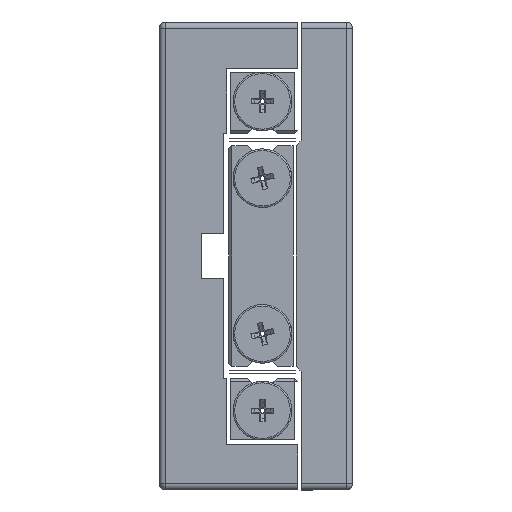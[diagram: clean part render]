
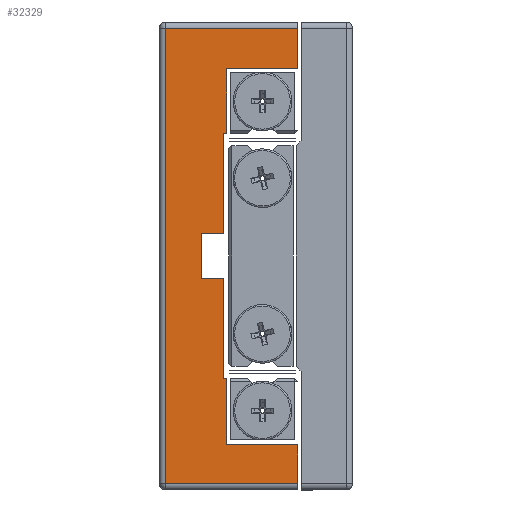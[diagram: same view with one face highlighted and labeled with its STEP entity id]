
A CAD part, left-side view. The second image highlights one B-rep face of the part: STEP entity #32329.
In plain terms, the highlighted planar face has unit normal (-1, 0, 0).
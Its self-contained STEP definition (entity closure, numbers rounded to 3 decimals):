
#2369 = CARTESIAN_POINT ( 'NONE',  ( -308.02, 49.775, -72.5 ) ) ;
#2386 = PLANE ( 'NONE',  #12313 ) ;
#2390 = DIRECTION ( 'NONE',  ( 1., 0., 0. ) ) ;
#2391 = DIRECTION ( 'NONE',  ( 0., 0., -1. ) ) ;
#2519 = CARTESIAN_POINT ( 'NONE',  ( -308.02, 6.775, -58.5 ) ) ;
#2527 = CARTESIAN_POINT ( 'NONE',  ( -308.02, 29.775, 38. ) ) ;
#2555 = CARTESIAN_POINT ( 'NONE',  ( -308.02, 6.775, 70.5 ) ) ;
#2557 = CARTESIAN_POINT ( 'NONE',  ( -308.02, 6.775, -70.5 ) ) ;
#2584 = CARTESIAN_POINT ( 'NONE',  ( -308.02, 28.775, -38. ) ) ;
#2600 = CARTESIAN_POINT ( 'NONE',  ( -308.02, 29.775, -38. ) ) ;
#2601 = CARTESIAN_POINT ( 'NONE',  ( -308.02, 36.775, 7. ) ) ;
#2604 = CARTESIAN_POINT ( 'NONE',  ( -308.02, 28.775, -58.5 ) ) ;
#2608 = CARTESIAN_POINT ( 'NONE',  ( -308.02, 36.775, -7. ) ) ;
#2617 = CARTESIAN_POINT ( 'NONE',  ( -308.02, 29.775, -7. ) ) ;
#3734 = CARTESIAN_POINT ( 'NONE',  ( -308.02, 6.775, -72.5 ) ) ;
#3735 = DIRECTION ( 'NONE',  ( 0., 0., 1. ) ) ;
#3736 = CARTESIAN_POINT ( 'NONE',  ( -308.02, 6.775, -72.5 ) ) ;
#3737 = DIRECTION ( 'NONE',  ( 0., 0., 1. ) ) ;
#3739 = CARTESIAN_POINT ( 'NONE',  ( -308.02, 47.775, -72.5 ) ) ;
#3743 = DIRECTION ( 'NONE',  ( 0., 0., -1. ) ) ;
#3782 = DIRECTION ( 'NONE',  ( 0., -1., 0. ) ) ;
#3786 = CARTESIAN_POINT ( 'NONE',  ( -308.02, 28.775, -58.5 ) ) ;
#3822 = DIRECTION ( 'NONE',  ( 0., 0., -1. ) ) ;
#3825 = CARTESIAN_POINT ( 'NONE',  ( -308.02, 28.775, -58.5 ) ) ;
#3930 = CARTESIAN_POINT ( 'NONE',  ( -308.02, 28.775, -38. ) ) ;
#3933 = DIRECTION ( 'NONE',  ( 0., 0., -1. ) ) ;
#3935 = CARTESIAN_POINT ( 'NONE',  ( -308.02, 29.775, -38. ) ) ;
#3937 = DIRECTION ( 'NONE',  ( 0., -1., 0. ) ) ;
#3953 = CARTESIAN_POINT ( 'NONE',  ( -308.02, 36.775, -7. ) ) ;
#3958 = DIRECTION ( 'NONE',  ( 0., 0., -1. ) ) ;
#3959 = CARTESIAN_POINT ( 'NONE',  ( -308.02, 29.775, -7. ) ) ;
#3960 = DIRECTION ( 'NONE',  ( 0., -1., 0. ) ) ;
#4001 = CARTESIAN_POINT ( 'NONE',  ( -308.02, 36.775, 7. ) ) ;
#4005 = DIRECTION ( 'NONE',  ( 0., 0., -1. ) ) ;
#4009 = CARTESIAN_POINT ( 'NONE',  ( -308.02, 29.775, 7. ) ) ;
#4011 = DIRECTION ( 'NONE',  ( 0., 1., 0. ) ) ;
#4030 = CARTESIAN_POINT ( 'NONE',  ( -308.02, 29.775, 38. ) ) ;
#4032 = DIRECTION ( 'NONE',  ( 0., 1., 0. ) ) ;
#4075 = DIRECTION ( 'NONE',  ( 0., 0., -1. ) ) ;
#4086 = CARTESIAN_POINT ( 'NONE',  ( -308.02, 28.775, 38. ) ) ;
#4210 = CARTESIAN_POINT ( 'NONE',  ( -308.02, 28.775, 58. ) ) ;
#4226 = DIRECTION ( 'NONE',  ( 0., 1., 0. ) ) ;
#4300 = CARTESIAN_POINT ( 'NONE',  ( -308.02, 49.775, -70.5 ) ) ;
#4308 = DIRECTION ( 'NONE',  ( 0., -1., 0. ) ) ;
#4382 = DIRECTION ( 'NONE',  ( 0., 1., 0. ) ) ;
#4406 = CARTESIAN_POINT ( 'NONE',  ( -308.02, 49.775, 70.5 ) ) ;
#5609 = CARTESIAN_POINT ( 'NONE',  ( -308.02, 47.775, -70.5 ) ) ;
#5752 = CARTESIAN_POINT ( 'NONE',  ( -308.02, 28.775, 38. ) ) ;
#5765 = CARTESIAN_POINT ( 'NONE',  ( -308.02, 28.775, 58. ) ) ;
#5766 = CARTESIAN_POINT ( 'NONE',  ( -308.02, 47.775, 70.5 ) ) ;
#5775 = CARTESIAN_POINT ( 'NONE',  ( -308.02, 29.775, 7. ) ) ;
#5778 = CARTESIAN_POINT ( 'NONE',  ( -308.02, 6.775, 58. ) ) ;
#10529 = FACE_OUTER_BOUND ( 'NONE', #30110, .T. ) ;
#12313 = AXIS2_PLACEMENT_3D ( 'NONE', #2369, #2390, #2391 ) ;
#14445 = LINE ( 'NONE', #3736, #14455 ) ;
#14450 = LINE ( 'NONE', #3734, #14453 ) ;
#14452 = LINE ( 'NONE', #3739, #14459 ) ;
#14453 = VECTOR ( 'NONE', #3737, 1000. ) ;
#14455 = VECTOR ( 'NONE', #3735, 1000. ) ;
#14459 = VECTOR ( 'NONE', #3743, 1000. ) ;
#14485 = LINE ( 'NONE', #3786, #14489 ) ;
#14489 = VECTOR ( 'NONE', #3782, 1000. ) ;
#14502 = LINE ( 'NONE', #3825, #14506 ) ;
#14506 = VECTOR ( 'NONE', #3822, 1000. ) ;
#14525 = LINE ( 'NONE', #3935, #14532 ) ;
#14527 = LINE ( 'NONE', #3930, #14530 ) ;
#14530 = VECTOR ( 'NONE', #3937, 1000. ) ;
#14532 = VECTOR ( 'NONE', #3933, 1000. ) ;
#14539 = LINE ( 'NONE', #3959, #14543 ) ;
#14542 = LINE ( 'NONE', #3953, #14545 ) ;
#14543 = VECTOR ( 'NONE', #3960, 1000. ) ;
#14545 = VECTOR ( 'NONE', #3958, 1000. ) ;
#14554 = LINE ( 'NONE', #4001, #14559 ) ;
#14556 = LINE ( 'NONE', #4009, #14561 ) ;
#14559 = VECTOR ( 'NONE', #4011, 1000. ) ;
#14561 = VECTOR ( 'NONE', #4005, 1000. ) ;
#14566 = LINE ( 'NONE', #4030, #14570 ) ;
#14570 = VECTOR ( 'NONE', #4032, 1000. ) ;
#14576 = LINE ( 'NONE', #4086, #14581 ) ;
#14581 = VECTOR ( 'NONE', #4075, 1000. ) ;
#14609 = LINE ( 'NONE', #4210, #14614 ) ;
#14614 = VECTOR ( 'NONE', #4226, 1000. ) ;
#14626 = LINE ( 'NONE', #4300, #14633 ) ;
#14633 = VECTOR ( 'NONE', #4308, 1000. ) ;
#14654 = LINE ( 'NONE', #4406, #14657 ) ;
#14657 = VECTOR ( 'NONE', #4382, 1000. ) ;
#18842 = VERTEX_POINT ( 'NONE', #5765 ) ;
#18891 = VERTEX_POINT ( 'NONE', #5609 ) ;
#18901 = VERTEX_POINT ( 'NONE', #5752 ) ;
#18904 = VERTEX_POINT ( 'NONE', #5775 ) ;
#18907 = VERTEX_POINT ( 'NONE', #5778 ) ;
#18920 = VERTEX_POINT ( 'NONE', #5766 ) ;
#29413 = EDGE_CURVE ( 'NONE', #32959, #32919, #14450, .T. ) ;
#29415 = EDGE_CURVE ( 'NONE', #18907, #32957, #14445, .T. ) ;
#29418 = EDGE_CURVE ( 'NONE', #18920, #18891, #14452, .T. ) ;
#29458 = EDGE_CURVE ( 'NONE', #33006, #32919, #14485, .T. ) ;
#29488 = EDGE_CURVE ( 'NONE', #32986, #33006, #14502, .T. ) ;
#29529 = EDGE_CURVE ( 'NONE', #33002, #32986, #14527, .T. ) ;
#29531 = EDGE_CURVE ( 'NONE', #33019, #33002, #14525, .T. ) ;
#29544 = EDGE_CURVE ( 'NONE', #33010, #33019, #14539, .T. ) ;
#29546 = EDGE_CURVE ( 'NONE', #33003, #33010, #14542, .T. ) ;
#29565 = EDGE_CURVE ( 'NONE', #18904, #33003, #14554, .T. ) ;
#29567 = EDGE_CURVE ( 'NONE', #32929, #18904, #14556, .T. ) ;
#29578 = EDGE_CURVE ( 'NONE', #18901, #32929, #14566, .T. ) ;
#29593 = EDGE_CURVE ( 'NONE', #18842, #18901, #14576, .T. ) ;
#29624 = EDGE_CURVE ( 'NONE', #18907, #18842, #14609, .T. ) ;
#29644 = EDGE_CURVE ( 'NONE', #18891, #32959, #14626, .T. ) ;
#29661 = EDGE_CURVE ( 'NONE', #32957, #18920, #14654, .T. ) ;
#30110 = EDGE_LOOP ( 'NONE', ( #36716, #36699, #36710, #36712, #36707, #36685, #36662, #36664, #36666, #36667, #36669, #36659, #36901, #36293, #36661, #36675 ) ) ;
#32329 = ADVANCED_FACE ( 'NONE', ( #10529 ), #2386, .F. ) ;
#32919 = VERTEX_POINT ( 'NONE', #2519 ) ;
#32929 = VERTEX_POINT ( 'NONE', #2527 ) ;
#32957 = VERTEX_POINT ( 'NONE', #2555 ) ;
#32959 = VERTEX_POINT ( 'NONE', #2557 ) ;
#32986 = VERTEX_POINT ( 'NONE', #2584 ) ;
#33002 = VERTEX_POINT ( 'NONE', #2600 ) ;
#33003 = VERTEX_POINT ( 'NONE', #2601 ) ;
#33006 = VERTEX_POINT ( 'NONE', #2604 ) ;
#33010 = VERTEX_POINT ( 'NONE', #2608 ) ;
#33019 = VERTEX_POINT ( 'NONE', #2617 ) ;
#36293 = ORIENTED_EDGE ( 'NONE', *, *, #29624, .F. ) ;
#36659 = ORIENTED_EDGE ( 'NONE', *, *, #29578, .F. ) ;
#36661 = ORIENTED_EDGE ( 'NONE', *, *, #29415, .T. ) ;
#36662 = ORIENTED_EDGE ( 'NONE', *, *, #29531, .F. ) ;
#36664 = ORIENTED_EDGE ( 'NONE', *, *, #29544, .F. ) ;
#36666 = ORIENTED_EDGE ( 'NONE', *, *, #29546, .F. ) ;
#36667 = ORIENTED_EDGE ( 'NONE', *, *, #29565, .F. ) ;
#36669 = ORIENTED_EDGE ( 'NONE', *, *, #29567, .F. ) ;
#36675 = ORIENTED_EDGE ( 'NONE', *, *, #29661, .T. ) ;
#36685 = ORIENTED_EDGE ( 'NONE', *, *, #29529, .F. ) ;
#36699 = ORIENTED_EDGE ( 'NONE', *, *, #29644, .T. ) ;
#36707 = ORIENTED_EDGE ( 'NONE', *, *, #29488, .F. ) ;
#36710 = ORIENTED_EDGE ( 'NONE', *, *, #29413, .T. ) ;
#36712 = ORIENTED_EDGE ( 'NONE', *, *, #29458, .F. ) ;
#36716 = ORIENTED_EDGE ( 'NONE', *, *, #29418, .T. ) ;
#36901 = ORIENTED_EDGE ( 'NONE', *, *, #29593, .F. ) ;
